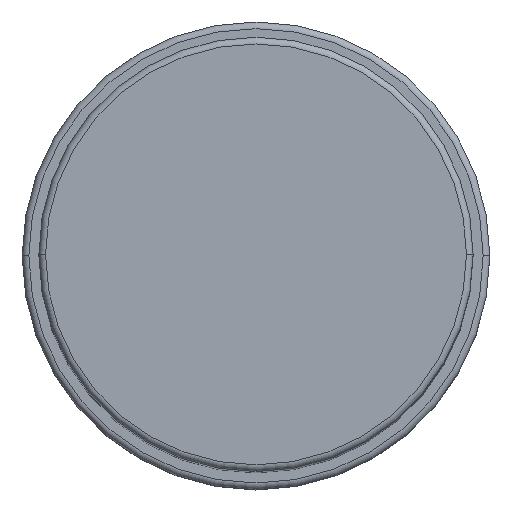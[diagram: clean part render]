
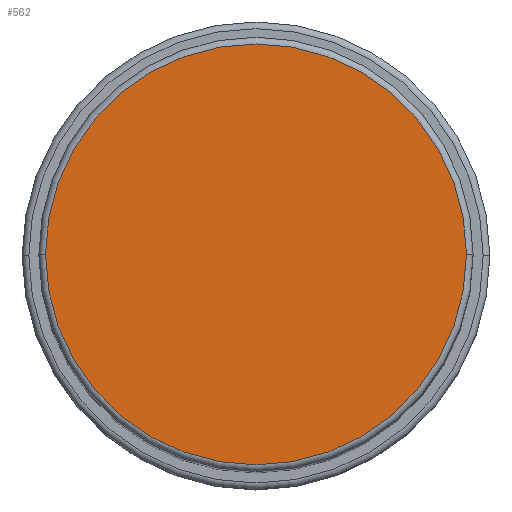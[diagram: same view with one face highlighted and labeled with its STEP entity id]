
A CAD part, top view. The second image highlights one B-rep face of the part: STEP entity #562.
In plain terms, the highlighted planar face has unit normal (0, 0, 1).
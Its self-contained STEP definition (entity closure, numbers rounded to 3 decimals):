
#273 = CIRCLE ( 'NONE', #3537, 31.5 ) ;
#381 = DIRECTION ( 'NONE',  ( 0., 0., 1. ) ) ;
#536 = CARTESIAN_POINT ( 'NONE',  ( 31.5, 0., 138. ) ) ;
#562 = ADVANCED_FACE ( 'NONE', ( #3012 ), #5146, .T. ) ;
#647 = CIRCLE ( 'NONE', #4247, 31.5 ) ;
#740 = EDGE_LOOP ( 'NONE', ( #3289, #3784 ) ) ;
#1693 = DIRECTION ( 'NONE',  ( 1., 0., 0. ) ) ;
#1913 = CARTESIAN_POINT ( 'NONE',  ( -31.5, 0., 138. ) ) ;
#2236 = DIRECTION ( 'NONE',  ( 0., 0., 1. ) ) ;
#2452 = EDGE_CURVE ( 'NONE', #2653, #4426, #647, .T. ) ;
#2653 = VERTEX_POINT ( 'NONE', #1913 ) ;
#3012 = FACE_OUTER_BOUND ( 'NONE', #740, .T. ) ;
#3188 = EDGE_CURVE ( 'NONE', #4426, #2653, #273, .T. ) ;
#3289 = ORIENTED_EDGE ( 'NONE', *, *, #3188, .T. ) ;
#3466 = CARTESIAN_POINT ( 'NONE',  ( 0., 0., 138. ) ) ;
#3505 = DIRECTION ( 'NONE',  ( 1., 0., 0. ) ) ;
#3518 = CARTESIAN_POINT ( 'NONE',  ( 0., 0., 138. ) ) ;
#3537 = AXIS2_PLACEMENT_3D ( 'NONE', #3518, #4384, #4370 ) ;
#3784 = ORIENTED_EDGE ( 'NONE', *, *, #2452, .T. ) ;
#4247 = AXIS2_PLACEMENT_3D ( 'NONE', #5038, #381, #1693 ) ;
#4370 = DIRECTION ( 'NONE',  ( 1., 0., 0. ) ) ;
#4384 = DIRECTION ( 'NONE',  ( 0., 0., 1. ) ) ;
#4426 = VERTEX_POINT ( 'NONE', #536 ) ;
#4666 = AXIS2_PLACEMENT_3D ( 'NONE', #3466, #2236, #3505 ) ;
#5038 = CARTESIAN_POINT ( 'NONE',  ( 0., 0., 138. ) ) ;
#5146 = PLANE ( 'NONE',  #4666 ) ;
